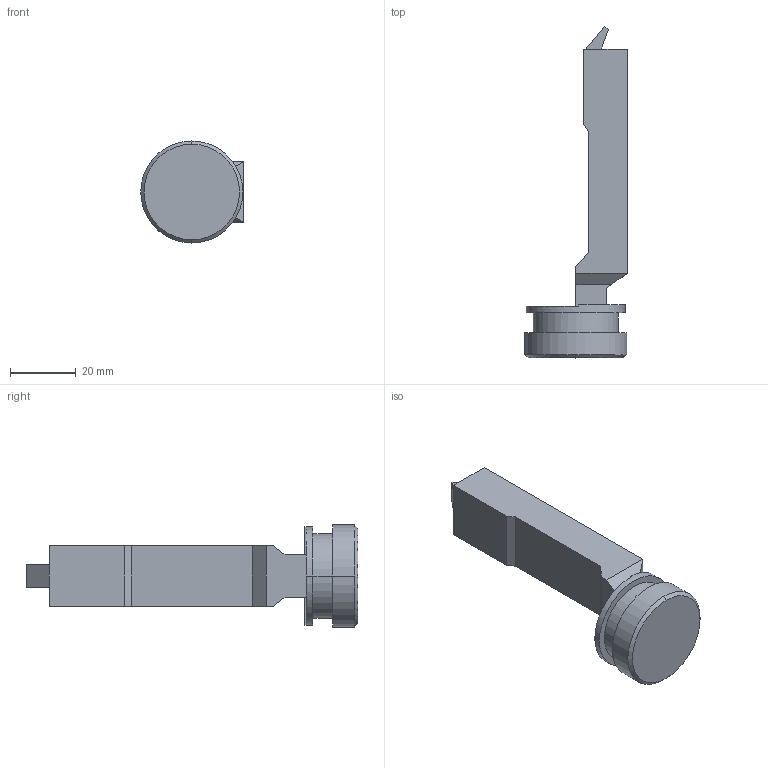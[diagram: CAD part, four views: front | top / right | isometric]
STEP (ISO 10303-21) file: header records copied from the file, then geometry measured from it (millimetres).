
FILE_DESCRIPTION (( 'STEP AP214' ), '1' );
FILE_NAME ('F045138079_136664.STEP', '2013-09-12T14:49:21', ( '' ), ( '' ), 'SwSTEP 2.0', 'SolidWorks 2012', '' );
FILE_SCHEMA (( 'AUTOMOTIVE_DESIGN' ));
Length unit declared in the file: millimetre
Products named in the file (1): F045138079_136664
Bounding box: 31.15 x 100.8 x 31 mm (x, y, z)
Volume: 27537.8 mm3; surface area: 8391.6 mm2
Topology: 1 solids, 1 shells, 46 faces, 112 edges, 74 vertices
Faces by surface type: plane 32, cylinder 12, cone 2
Entity records: 1384 total; most frequent: DIRECTION 236, CARTESIAN_POINT 233, ORIENTED_EDGE 224, EDGE_CURVE 112, LINE 82, VECTOR 82, AXIS2_PLACEMENT_3D 77, VERTEX_POINT 74
